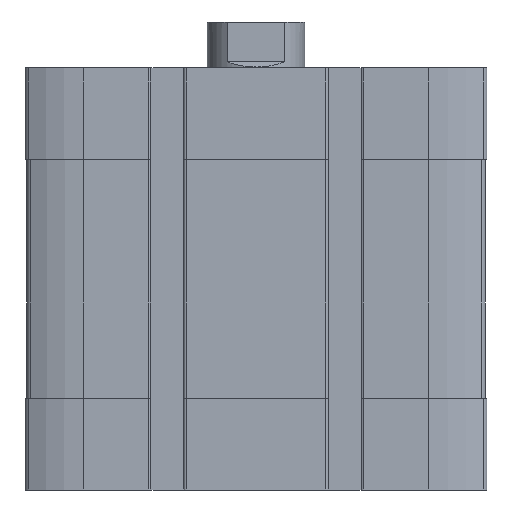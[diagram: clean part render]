
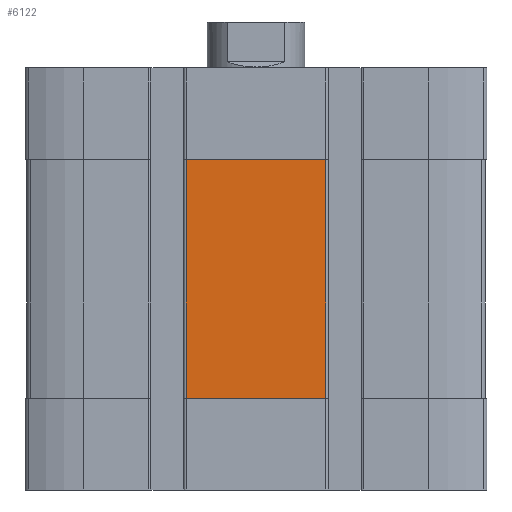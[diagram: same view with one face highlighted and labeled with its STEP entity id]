
A CAD part, front view. The second image highlights one B-rep face of the part: STEP entity #6122.
In plain terms, the highlighted planar face has unit normal (0, -1, 0).
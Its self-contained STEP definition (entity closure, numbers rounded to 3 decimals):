
#577 = EDGE_LOOP ( 'NONE', ( #6762, #12240, #2518, #1569 ) ) ;
#718 = EDGE_CURVE ( 'NONE', #14051, #14047, #5186, .T. ) ;
#1488 = LINE ( 'NONE', #4858, #13690 ) ;
#1569 = ORIENTED_EDGE ( 'NONE', *, *, #3067, .T. ) ;
#1977 = VECTOR ( 'NONE', #7166, 1000. ) ;
#2030 = LINE ( 'NONE', #2748, #13852 ) ;
#2270 = DIRECTION ( 'NONE',  ( 0., 0., -1. ) ) ;
#2518 = ORIENTED_EDGE ( 'NONE', *, *, #3256, .T. ) ;
#2748 = CARTESIAN_POINT ( 'NONE',  ( -11.4, -37.5, -54. ) ) ;
#3067 = EDGE_CURVE ( 'NONE', #5453, #14051, #2030, .T. ) ;
#3256 = EDGE_CURVE ( 'NONE', #10476, #5453, #7827, .T. ) ;
#3560 = FACE_OUTER_BOUND ( 'NONE', #577, .T. ) ;
#3942 = CARTESIAN_POINT ( 'NONE',  ( -11.4, -37.5, -54. ) ) ;
#4858 = CARTESIAN_POINT ( 'NONE',  ( 11.4, -37.5, -54. ) ) ;
#5159 = PLANE ( 'NONE',  #11852 ) ;
#5186 = LINE ( 'NONE', #6955, #1977 ) ;
#5453 = VERTEX_POINT ( 'NONE', #15010 ) ;
#5758 = EDGE_CURVE ( 'NONE', #14047, #10476, #1488, .T. ) ;
#5917 = CARTESIAN_POINT ( 'NONE',  ( 11.4, -37.5, -54. ) ) ;
#6122 = ADVANCED_FACE ( 'NONE', ( #3560 ), #5159, .T. ) ;
#6591 = CARTESIAN_POINT ( 'NONE',  ( 0., -37.5, -15. ) ) ;
#6762 = ORIENTED_EDGE ( 'NONE', *, *, #718, .T. ) ;
#6908 = DIRECTION ( 'NONE',  ( -1., 0., 0. ) ) ;
#6955 = CARTESIAN_POINT ( 'NONE',  ( -11.4, -37.5, -54. ) ) ;
#7112 = CARTESIAN_POINT ( 'NONE',  ( -11.4, -37.5, -54. ) ) ;
#7166 = DIRECTION ( 'NONE',  ( 1., 0., 0. ) ) ;
#7827 = LINE ( 'NONE', #6591, #14029 ) ;
#8074 = DIRECTION ( 'NONE',  ( 0., 0., 1. ) ) ;
#10476 = VERTEX_POINT ( 'NONE', #11938 ) ;
#11852 = AXIS2_PLACEMENT_3D ( 'NONE', #3942, #14481, #13399 ) ;
#11938 = CARTESIAN_POINT ( 'NONE',  ( 11.4, -37.5, -15. ) ) ;
#12240 = ORIENTED_EDGE ( 'NONE', *, *, #5758, .T. ) ;
#13399 = DIRECTION ( 'NONE',  ( 0., 0., -1. ) ) ;
#13690 = VECTOR ( 'NONE', #8074, 1000. ) ;
#13852 = VECTOR ( 'NONE', #2270, 1000. ) ;
#14029 = VECTOR ( 'NONE', #6908, 1000. ) ;
#14047 = VERTEX_POINT ( 'NONE', #5917 ) ;
#14051 = VERTEX_POINT ( 'NONE', #7112 ) ;
#14481 = DIRECTION ( 'NONE',  ( 0., -1., 0. ) ) ;
#15010 = CARTESIAN_POINT ( 'NONE',  ( -11.4, -37.5, -15. ) ) ;
